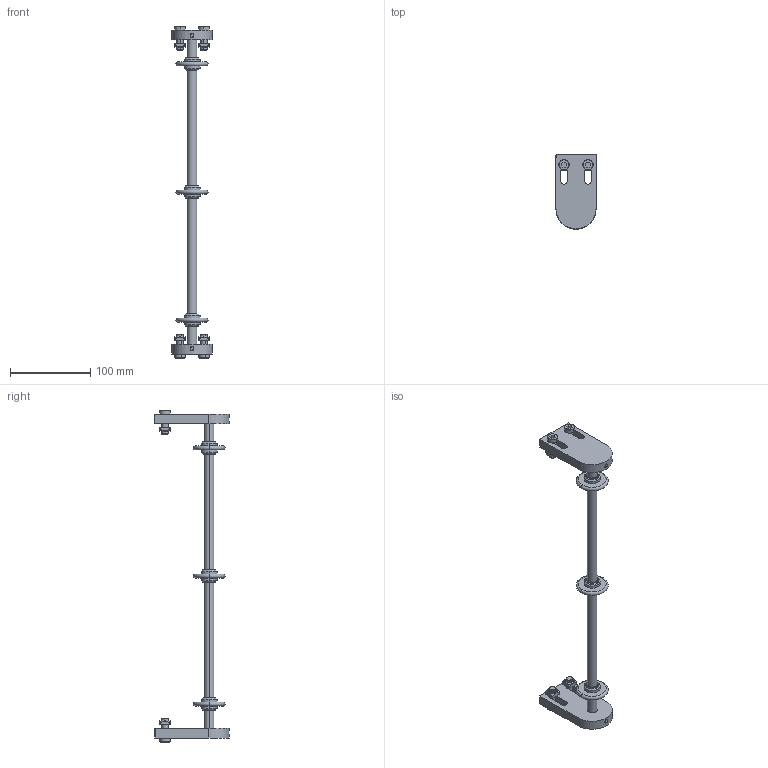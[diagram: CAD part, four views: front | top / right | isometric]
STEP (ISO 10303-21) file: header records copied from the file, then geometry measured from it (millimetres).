
FILE_DESCRIPTION (( 'STEP AP203' ), '1' );
FILE_NAME ('084.050.KSW.350.STEP', '2019-07-30T06:56:25', ( '' ), ( '' ), 'SwSTEP 2.0', 'SolidWorks 2018', '' );
FILE_SCHEMA (( 'CONFIG_CONTROL_DESIGN' ));
Length unit declared in the file: millimetre
Products named in the file (8): 084.301.000 VITI ALUSIC_084.301.004; 084.050.KSW.350; 084.802.041; GRANI A PUNTA PIATTA UNI 5923_M6x16 UNI 5923; Parte359^084.050.KSW.350; 084.802.030; circlip for shafts normal_din_PreviewCfg; 084.302.000 DADI ALUSIC 13x13-1_084.302.004
Assembly tree (22 placements, depth 2):
  084.050.KSW.350
    Parte359^084.050.KSW.350
    084.802.041  x3
    084.802.030  x2
    circlip for shafts normal_din_PreviewCfg  x6
    GRANI A PUNTA PIATTA UNI 5923_M6x16 UNI 5923  x2
    084.301.000 VITI ALUSIC_084.301.004  x4
    084.302.000 DADI ALUSIC 13x13-1_084.302.004  x4
Bounding box: 50 x 92.5 x 415 mm (x, y, z)
Volume: 168541.4 mm3; surface area: 62131.4 mm2
Topology: 22 solids, 22 shells, 420 faces, 1030 edges, 672 vertices
Faces by surface type: cylinder 178, plane 152, torus 38, cone 36, bspline 16
Entity records: 5214 total; most frequent: CARTESIAN_POINT 1121, DIRECTION 636, ORIENTED_EDGE 560, EDGE_CURVE 280, AXIS2_PLACEMENT_3D 251, VERTEX_POINT 182, EDGE_LOOP 138, VECTOR 134
